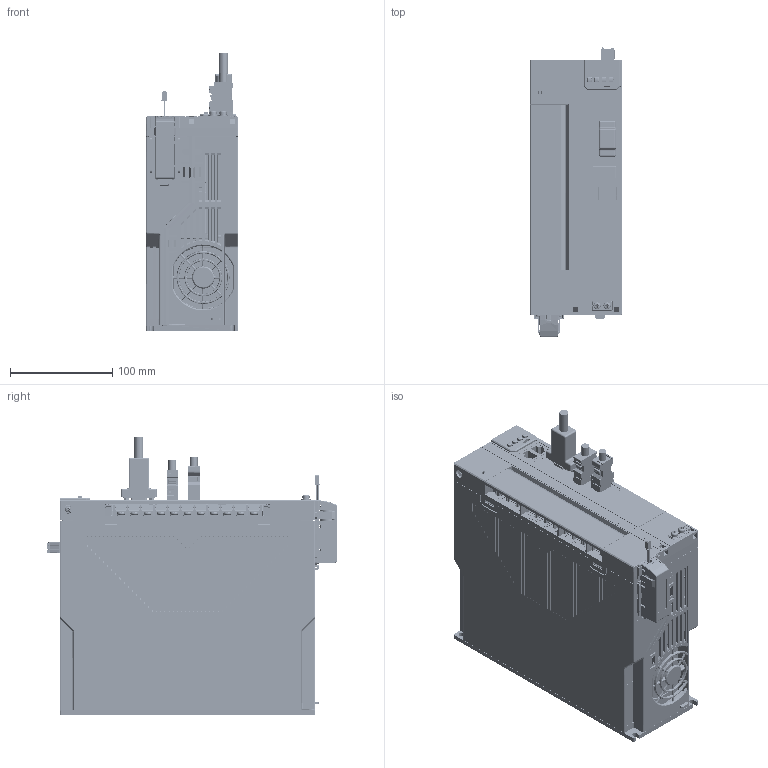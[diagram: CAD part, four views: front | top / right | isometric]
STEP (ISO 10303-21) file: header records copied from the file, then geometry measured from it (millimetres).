
FILE_DESCRIPTION((''),'2;1');
FILE_NAME('SD900-300D-EA_ASM','2025-09-28T',('v5489'),(''),'CREO PARAMETRIC BY PTC INC, 2018360','CREO PARAMETRIC BY PTC INC, 2018360','');
FILE_SCHEMA(('AP203_CONFIGURATION_CONTROLLED_3D_DESIGN_OF_MECHANICAL_PARTS_AND_ASSEMBLIES_MIM_LF { 1 0 10303 403 2 1 2 }'));
Products named in the file (17): 00-SD900-300D-EA_ASM_1_1; 00-SD900-300D-EA_ASM_1_2; 00-SD900-300D-EA_ASM_1_ASM; SD900-DCH-P001_284; SD900-DCH-N001_98; 14505_50_1; 14505_50_2; 14505_50_3; 14505_50_ASM; S6-C4A_31; SD900-DCH-P_ASM_535_ASM; SD900-DCH-P_ASM_ASM; 5006540609; 1394SM_10P_; DB-15-1; 15EDGKNH-3_5-04P-14-00A_H_; SD900-300D-EA_ASM
Assembly tree (16 placements, depth 5):
  SD900-300D-EA_ASM
    00-SD900-300D-EA_ASM_1_ASM
      00-SD900-300D-EA_ASM_1_1
      00-SD900-300D-EA_ASM_1_2
    SD900-DCH-P_ASM_ASM
      SD900-DCH-P_ASM_535_ASM
        SD900-DCH-P001_284
        SD900-DCH-N001_98
        14505_50_ASM
          14505_50_1
          14505_50_2
          14505_50_3
        S6-C4A_31
    5006540609
    1394SM_10P_
    DB-15-1
    15EDGKNH-3_5-04P-14-00A_H_
Bounding box: 90 x 284 x 271.35 mm (x, y, z)
Volume: 45410 mm3; surface area: 437393.3 mm2
Topology: 22 solids, 43 shells, 14491 faces, 41266 edges, 26933 vertices
Faces by surface type: plane 8801, cylinder 3410, bspline 768, cone 542, extrusion 451, torus 337, sphere 182
Entity records: 655442 total; most frequent: CARTESIAN_POINT 186617, ORIENTED_EDGE 81832, DIRECTION 68031, EDGE_CURVE 40977, VECTOR 27777, LINE 27326, VERTEX_POINT 26830, AXIS2_PLACEMENT_3D 20127
